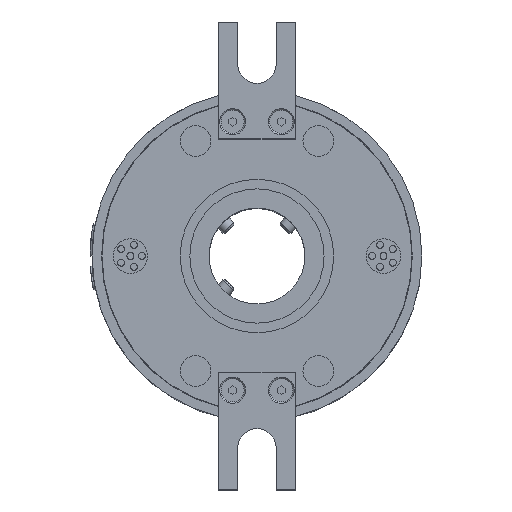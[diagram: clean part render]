
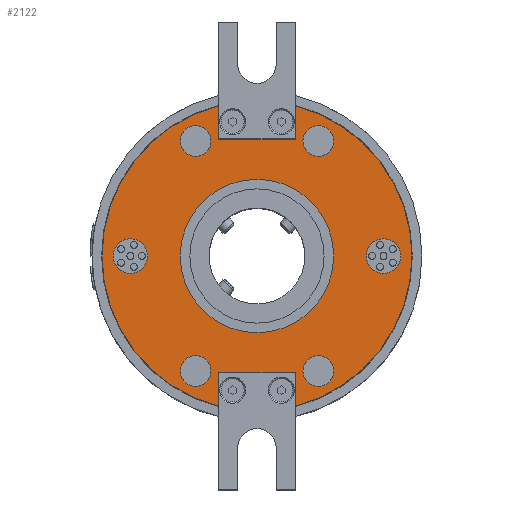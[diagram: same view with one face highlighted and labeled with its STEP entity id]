
A CAD part, top view. The second image highlights one B-rep face of the part: STEP entity #2122.
In plain terms, the highlighted planar face has unit normal (0, 0, 1).
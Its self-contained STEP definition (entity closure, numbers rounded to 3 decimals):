
#198=FACE_BOUND('',#5199,.T.);
#199=FACE_BOUND('',#5200,.T.);
#200=FACE_BOUND('',#5201,.T.);
#201=FACE_BOUND('',#5202,.T.);
#202=FACE_BOUND('',#5203,.T.);
#203=FACE_BOUND('',#5204,.T.);
#204=FACE_BOUND('',#5205,.T.);
#205=FACE_BOUND('',#5206,.T.);
#582=CIRCLE('',#17307,40.4);
#583=CIRCLE('',#17308,40.4);
#584=CIRCLE('',#17309,20.);
#585=CIRCLE('',#17310,4.);
#586=CIRCLE('',#17311,4.);
#587=CIRCLE('',#17312,4.5);
#588=CIRCLE('',#17313,4.5);
#589=CIRCLE('',#17314,4.);
#590=CIRCLE('',#17315,4.);
#1036=PLANE('',#17316);
#1342=LINE('',#32154,#3463);
#1343=LINE('',#32156,#3464);
#1344=LINE('',#32158,#3465);
#1345=LINE('',#32160,#3466);
#1346=LINE('',#32162,#3467);
#1347=LINE('',#32164,#3468);
#2122=ADVANCED_FACE('',(#198,#199,#200,#201,#202,#203,#204,#205),#1036,
 .T.);
#3463=VECTOR('',#18983,1.);
#3464=VECTOR('',#18984,1.);
#3465=VECTOR('',#18985,1.);
#3466=VECTOR('',#18988,1.);
#3467=VECTOR('',#18989,1.);
#3468=VECTOR('',#18990,1.);
#5199=EDGE_LOOP('',(#8059,#8060,#8061,#8062,#8063,#8064,#8065,#8066));
#5200=EDGE_LOOP('',(#8067));
#5201=EDGE_LOOP('',(#8068));
#5202=EDGE_LOOP('',(#8069));
#5203=EDGE_LOOP('',(#8070));
#5204=EDGE_LOOP('',(#8071));
#5205=EDGE_LOOP('',(#8072));
#5206=EDGE_LOOP('',(#8073));
#8059=ORIENTED_EDGE('',*,*,#13991,.F.);
#8060=ORIENTED_EDGE('',*,*,#13992,.F.);
#8061=ORIENTED_EDGE('',*,*,#13993,.F.);
#8062=ORIENTED_EDGE('',*,*,#13994,.F.);
#8063=ORIENTED_EDGE('',*,*,#13995,.F.);
#8064=ORIENTED_EDGE('',*,*,#13996,.F.);
#8065=ORIENTED_EDGE('',*,*,#13997,.F.);
#8066=ORIENTED_EDGE('',*,*,#13998,.F.);
#8067=ORIENTED_EDGE('',*,*,#13999,.F.);
#8068=ORIENTED_EDGE('',*,*,#14000,.T.);
#8069=ORIENTED_EDGE('',*,*,#14001,.T.);
#8070=ORIENTED_EDGE('',*,*,#14002,.T.);
#8071=ORIENTED_EDGE('',*,*,#14003,.T.);
#8072=ORIENTED_EDGE('',*,*,#14004,.F.);
#8073=ORIENTED_EDGE('',*,*,#14005,.F.);
#11740=VERTEX_POINT('',#32069);
#11742=VERTEX_POINT('',#32073);
#11744=VERTEX_POINT('',#32078);
#11746=VERTEX_POINT('',#32082);
#11771=VERTEX_POINT('',#32155);
#11772=VERTEX_POINT('',#32157);
#11773=VERTEX_POINT('',#32161);
#11774=VERTEX_POINT('',#32163);
#11775=VERTEX_POINT('',#32167);
#11776=VERTEX_POINT('',#32169);
#11777=VERTEX_POINT('',#32171);
#11778=VERTEX_POINT('',#32173);
#11779=VERTEX_POINT('',#32175);
#11780=VERTEX_POINT('',#32177);
#11781=VERTEX_POINT('',#32179);
#13991=EDGE_CURVE('',#11771,#11746,#1342,.T.);
#13992=EDGE_CURVE('',#11772,#11771,#1343,.T.);
#13993=EDGE_CURVE('',#11744,#11772,#1344,.T.);
#13994=EDGE_CURVE('',#11742,#11744,#582,.T.);
#13995=EDGE_CURVE('',#11773,#11742,#1345,.T.);
#13996=EDGE_CURVE('',#11774,#11773,#1346,.T.);
#13997=EDGE_CURVE('',#11740,#11774,#1347,.T.);
#13998=EDGE_CURVE('',#11746,#11740,#583,.T.);
#13999=EDGE_CURVE('',#11775,#11775,#584,.T.);
#14000=EDGE_CURVE('',#11776,#11776,#585,.T.);
#14001=EDGE_CURVE('',#11777,#11777,#586,.T.);
#14002=EDGE_CURVE('',#11778,#11778,#587,.T.);
#14003=EDGE_CURVE('',#11779,#11779,#588,.T.);
#14004=EDGE_CURVE('',#11780,#11780,#589,.T.);
#14005=EDGE_CURVE('',#11781,#11781,#590,.T.);
#17307=AXIS2_PLACEMENT_3D('',#32159,#18986,#18987);
#17308=AXIS2_PLACEMENT_3D('',#32165,#18991,#18992);
#17309=AXIS2_PLACEMENT_3D('',#32166,#18993,#18994);
#17310=AXIS2_PLACEMENT_3D('',#32168,#18995,#18996);
#17311=AXIS2_PLACEMENT_3D('',#32170,#18997,#18998);
#17312=AXIS2_PLACEMENT_3D('',#32172,#18999,#19000);
#17313=AXIS2_PLACEMENT_3D('',#32174,#19001,#19002);
#17314=AXIS2_PLACEMENT_3D('',#32176,#19003,#19004);
#17315=AXIS2_PLACEMENT_3D('',#32178,#19005,#19006);
#17316=AXIS2_PLACEMENT_3D('',#32180,#19007,#19008);
#18983=DIRECTION('',(0.,1.,0.));
#18984=DIRECTION('',(1.,0.,0.));
#18985=DIRECTION('',(0.,-1.,0.));
#18986=DIRECTION('',(0.,0.,-1.));
#18987=DIRECTION('',(1.,0.,0.));
#18988=DIRECTION('',(0.,-1.,0.));
#18989=DIRECTION('',(-1.,0.,0.));
#18990=DIRECTION('',(0.,1.,0.));
#18991=DIRECTION('',(0.,0.,-1.));
#18992=DIRECTION('',(1.,0.,0.));
#18993=DIRECTION('',(0.,0.,1.));
#18994=DIRECTION('',(1.,0.,0.));
#18995=DIRECTION('',(0.,0.,-1.));
#18996=DIRECTION('',(1.,0.,0.));
#18997=DIRECTION('',(0.,0.,-1.));
#18998=DIRECTION('',(1.,0.,0.));
#18999=DIRECTION('',(0.,0.,-1.));
#19000=DIRECTION('',(1.,0.,0.));
#19001=DIRECTION('',(0.,0.,-1.));
#19002=DIRECTION('',(1.,0.,0.));
#19003=DIRECTION('',(0.,0.,1.));
#19004=DIRECTION('',(1.,0.,0.));
#19005=DIRECTION('',(0.,0.,1.));
#19006=DIRECTION('',(1.,0.,0.));
#19007=DIRECTION('',(0.,0.,1.));
#19008=DIRECTION('',(1.,0.,0.));
#32069=CARTESIAN_POINT('',(10.,-39.143,82.8));
#32073=CARTESIAN_POINT('',(-10.,-39.143,82.8));
#32078=CARTESIAN_POINT('',(-10.,39.143,82.8));
#32082=CARTESIAN_POINT('',(10.,39.143,82.8));
#32154=CARTESIAN_POINT('',(10.,45.75,82.8));
#32155=CARTESIAN_POINT('',(10.,30.5,82.8));
#32156=CARTESIAN_POINT('',(0.,30.5,82.8));
#32157=CARTESIAN_POINT('',(-10.,30.5,82.8));
#32158=CARTESIAN_POINT('',(-10.,45.75,82.8));
#32159=CARTESIAN_POINT('',(0.,0.,82.8));
#32160=CARTESIAN_POINT('',(-10.,-45.75,82.8));
#32161=CARTESIAN_POINT('',(-10.,-30.5,82.8));
#32162=CARTESIAN_POINT('',(0.,-30.5,82.8));
#32163=CARTESIAN_POINT('',(10.,-30.5,82.8));
#32164=CARTESIAN_POINT('',(10.,-45.75,82.8));
#32165=CARTESIAN_POINT('',(0.,0.,82.8));
#32166=CARTESIAN_POINT('',(0.,0.,82.8));
#32167=CARTESIAN_POINT('',(20.,0.,82.8));
#32168=CARTESIAN_POINT('',(-16.,-30.,82.8));
#32169=CARTESIAN_POINT('',(-12.,-30.,82.8));
#32170=CARTESIAN_POINT('',(16.,-30.,82.8));
#32171=CARTESIAN_POINT('',(20.,-30.,82.8));
#32172=CARTESIAN_POINT('',(33.,0.,82.8));
#32173=CARTESIAN_POINT('',(37.5,0.,82.8));
#32174=CARTESIAN_POINT('',(-33.,0.,82.8));
#32175=CARTESIAN_POINT('',(-28.5,0.,82.8));
#32176=CARTESIAN_POINT('',(-16.,30.,82.8));
#32177=CARTESIAN_POINT('',(-12.,30.,82.8));
#32178=CARTESIAN_POINT('',(16.,30.,82.8));
#32179=CARTESIAN_POINT('',(20.,30.,82.8));
#32180=CARTESIAN_POINT('',(-16.,30.,82.8));
